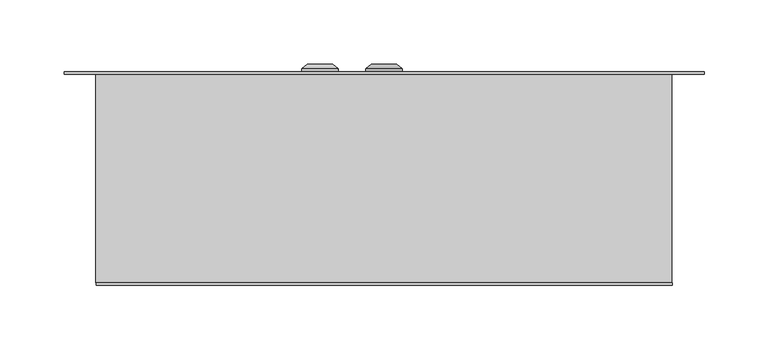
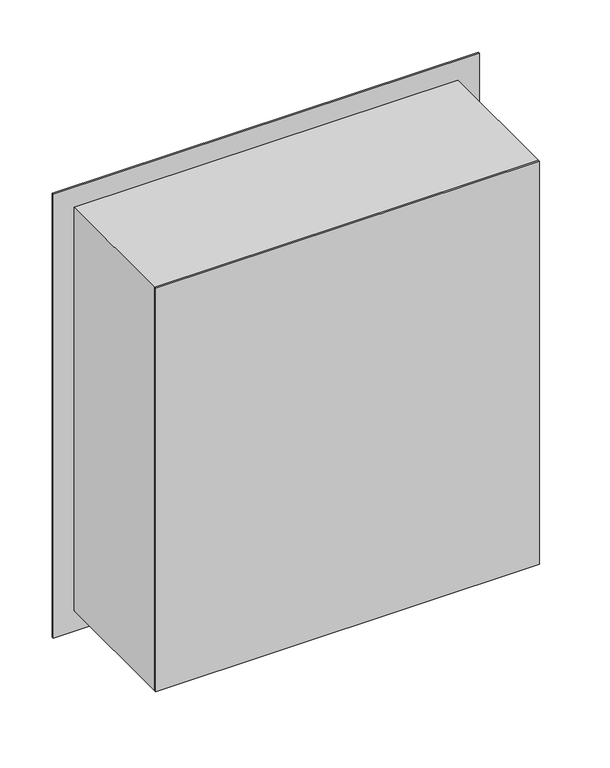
"""IFC4 building model written with IfcOpenShell, lengths in millimetres: proxy geometry, ЩУРВ-3_30 : ЩУРВ-3_30."""

from ifc_helpers import new_model, si_unit, point, frame, frame_2d, origin, place, context, project, spatial, polyline, circle_curve, trimmed, segment, composite_curve, outline, extrude, source, transform, mapped, element, save
from ifc_brep_helpers import plane_surface, cylinder_surface, revolved_surface, advanced_brep


def electrical_equipment_e2eaab87(model_context):
    return source(origin(), model_context, "Body", "SolidModel", [
        extrude(outline(polyline([(225.0, -165.0), (-225.0, -165.0), (-225.0, -163.0), (225.0, -163.0), (225.0, -165.0)])), frame((0.0, 0.0, 25.0), z_axis=(0.0, 0.0, 1.0), x_axis=(1.0, 0.0, 0.0)), (0.0, 0.0, 1.0), 500.0),
        extrude(outline(composite_curve([segment(trimmed(circle_curve(frame_2d((418.0, 17.0169529)), 10.0), [point((428.0, 17.0169529))], [point((418.0, 7.0169529))], False, "CARTESIAN"), True, "CONTINUOUS"), segment(polyline([(418.0, 7.0169529), (363.0, 7.0169529)]), True, "CONTINUOUS"), segment(trimmed(circle_curve(frame_2d((363.0, 17.0169529)), 10.0), [point((363.0, 7.0169529))], [point((353.0, 17.0169529))], False, "CARTESIAN"), True, "CONTINUOUS"), segment(polyline([(353.0, 17.0169529), (353.0, 97.0169529)]), True, "CONTINUOUS"), segment(trimmed(circle_curve(frame_2d((363.0, 97.0169529)), 10.0), [point((353.0, 97.0169529))], [point((363.0, 107.0169529))], False, "CARTESIAN"), True, "CONTINUOUS"), segment(polyline([(363.0, 107.0169529), (418.0, 107.0169529)]), True, "CONTINUOUS"), segment(trimmed(circle_curve(frame_2d((418.0, 97.0169529)), 10.0), [point((418.0, 107.0169529))], [point((428.0, 97.0169529))], False, "CARTESIAN"), True, "CONTINUOUS"), segment(polyline([(428.0, 97.0169529), (428.0, 17.0169529)]), True, "CONTINUOUS")], self_intersect=False)), frame((0.0, 0.0, 0.0), z_axis=(0.0, 1.0, 0.0), x_axis=(0.0, 0.0, 1.0)), (0.0, 0.0, 1.0), 2.0),
        extrude(outline(polyline([(550.0, -250.0), (0.0, -250.0), (0.0, 250.0), (550.0, 250.0), (550.0, -250.0)]), holes=[polyline([(525.0, -225.0), (525.0, 225.0), (25.0, 225.0), (25.0, -225.0), (525.0, -225.0)])]), frame((0.0, 0.0, 0.0), z_axis=(0.0, 1.0, 0.0), x_axis=(0.0, 0.0, 1.0)), (0.0, 0.0, 1.0), 2.0),
        extrude(outline(polyline([(-28.0, 0.0), (-223.0, 0.0), (-223.0, 2.0), (-28.0, 2.0), (-28.0, 0.0)])), frame((0.0, 0.0, 27.0), z_axis=(0.0, 0.0, 1.0), x_axis=(1.0, 0.0, 0.0)), (0.0, 0.0, 1.0), 496.0),
        extrude(outline(polyline([(523.0, -23.0), (27.0, -23.0), (27.0, 223.0), (523.0, 223.0), (523.0, -23.0)]), holes=[composite_curve([segment(polyline([(428.0, 17.0169529), (428.0, 97.0169529)]), True, "CONTINUOUS"), segment(trimmed(circle_curve(frame_2d((418.0, 97.0169529)), 10.0), [point((428.0, 97.0169529))], [point((418.0, 107.0169529))], True, "CARTESIAN"), True, "CONTINUOUS"), segment(polyline([(418.0, 107.0169529), (363.0, 107.0169529)]), True, "CONTINUOUS"), segment(trimmed(circle_curve(frame_2d((363.0, 97.0169529)), 10.0), [point((363.0, 107.0169529))], [point((353.0, 97.0169529))], True, "CARTESIAN"), True, "CONTINUOUS"), segment(polyline([(353.0, 97.0169529), (353.0, 17.0169529)]), True, "CONTINUOUS"), segment(trimmed(circle_curve(frame_2d((363.0, 17.0169529)), 10.0), [point((353.0, 17.0169529))], [point((363.0, 7.0169529))], True, "CARTESIAN"), True, "CONTINUOUS"), segment(polyline([(363.0, 7.0169529), (418.0, 7.0169529)]), True, "CONTINUOUS"), segment(trimmed(circle_curve(frame_2d((418.0, 17.0169529)), 10.0), [point((418.0, 7.0169529))], [point((428.0, 17.0169529))], True, "CARTESIAN"), True, "CONTINUOUS")], self_intersect=False)]), frame((0.0, 0.0, 0.0), z_axis=(0.0, 1.0, 0.0), x_axis=(0.0, 0.0, 1.0)), (0.0, 0.0, 1.0), 2.0),
        extrude(outline(polyline([(525.0, -225.0033905), (25.0, -225.0033905), (25.0, 224.9966095), (525.0, 224.9966095), (525.0, -225.0033905)]), holes=[polyline([(524.0, -224.0033905), (524.0, 223.9966095), (26.0, 223.9966095), (26.0, -224.0033905), (524.0, -224.0033905)])]), frame((0.0, -163.0, 0.0), z_axis=(0.0, 1.0, 0.0), x_axis=(0.0, 0.0, 1.0)), (0.0, 0.0, 1.0), 163.0),
        advanced_brep(
        [(-49.9830471, 2.0, 275.0), (-64.3131742, 2.0, 275.0), (-35.6529201, 2.0, 275.0), (-64.3131742, 4.366592, 275.0), (-35.6529201, 4.366592, 275.0), (-59.9830471, 8.0, 275.0), (-39.9830471, 8.0, 275.0), (-51.875, 8.0, 275.0), (-48.0910943, 8.0, 275.0), (-51.875, 6.9822294, 275.0), (-48.0910943, 6.9822294, 275.0), (-49.9830471, 6.9822294, 275.0)],
        [
            (0, 1),
            (1, 2, circle_curve(frame((-49.9830471, 2.0, 275.0), z_axis=(0.0, -1.0, 0.0), x_axis=(-1.0, 0.0, 0.0)), 14.330127)),
            (2, 0),
            (2, 1, circle_curve(frame((-49.9830471, 2.0, 275.0), z_axis=(0.0, -1.0, 0.0), x_axis=(-1.0, 0.0, 0.0)), 14.330127)),
            (1, 3),
            (3, 4, circle_curve(frame((-49.9830471, 4.366592, 275.0), z_axis=(0.0, -1.0, 0.0), x_axis=(-1.0, 0.0, 0.0)), 14.330127)),
            (4, 2),
            (4, 3, circle_curve(frame((-49.9830471, 4.366592, 275.0), z_axis=(0.0, -1.0, 0.0), x_axis=(-1.0, 0.0, 0.0)), 14.330127)),
            (3, 5),
            (5, 6, circle_curve(frame((-49.9830471, 8.0, 275.0), z_axis=(0.0, -1.0, 0.0), x_axis=(-1.0, 0.0, 0.0)), 10.0)),
            (6, 4),
            (6, 5, circle_curve(frame((-49.9830471, 8.0, 275.0), z_axis=(0.0, -1.0, 0.0), x_axis=(-1.0, 0.0, 0.0)), 10.0)),
            (5, 7),
            (7, 8, circle_curve(frame((-49.9830471, 8.0, 275.0), z_axis=(0.0, -1.0, 0.0), x_axis=(-1.0, 0.0, 0.0)), 1.8919529)),
            (8, 6),
            (8, 7, circle_curve(frame((-49.9830471, 8.0, 275.0), z_axis=(0.0, -1.0, 0.0), x_axis=(-1.0, 0.0, 0.0)), 1.8919529)),
            (7, 9),
            (9, 10, circle_curve(frame((-49.9830471, 6.9822294, 275.0), z_axis=(0.0, -1.0, 0.0), x_axis=(-1.0, 0.0, 0.0)), 1.8919529)),
            (10, 8),
            (10, 9, circle_curve(frame((-49.9830471, 6.9822294, 275.0), z_axis=(0.0, -1.0, 0.0), x_axis=(-1.0, 0.0, 0.0)), 1.8919529)),
            (9, 11),
            (11, 10),
        ],
        [
            plane_surface(frame((-49.9830471, 2.0, 275.0), z_axis=(0.0, -1.0, 0.0), x_axis=(-1.0, 0.0, 0.0))),
            cylinder_surface(frame((-49.9830471, 15.1348851, 275.0), z_axis=(0.0, -1.0, 0.0), x_axis=(-1.0, 0.0, 0.0)), 14.330127),
            revolved_surface(polyline([(-59.9830471, 8.0, 275.0), (-64.3131742, 4.366592, 275.0)]), (-49.9830471, 15.1348851, 275.0), (0.0, -1.0, 0.0)),
            plane_surface(frame((-49.9830471, 8.0, 275.0), z_axis=(0.0, 1.0, 0.0), x_axis=(-1.0, 0.0, 0.0))),
            revolved_surface(polyline([(-51.875, 6.9822294, 275.0), (-51.875, 8.0, 275.0)]), (-49.9830471, 15.1348851, 275.0), (0.0, -1.0, 0.0)),
            plane_surface(frame((-49.9830471, 6.9822294, 275.0), z_axis=(0.0, 1.0, 0.0), x_axis=(-1.0, 0.0, 0.0))),
        ],
        [
            (0, [[1, 2, 3]]),
            (0, [[-3, 4, -1]]),
            (1, [[-2, 5, 6, 7]]),
            (1, [[-4, -7, 8, -5]]),
            (2, [[-6, 9, 10, 11]]),
            (2, [[-8, -11, 12, -9]]),
            (3, [[-10, 13, 14, 15]]),
            (3, [[-12, -15, 16, -13]]),
            (4, [[-14, 17, 18, 19]]),
            (4, [[-16, -19, 20, -17]]),
            (5, [[-18, 21, 22]]),
            (5, [[-20, -22, -21]]),
        ],
    ),
        advanced_brep(
        [(-14.3131742, 2.0, 275.0), (14.3470799, 2.0, 275.0), (0.0169529, 2.0, 275.0), (-14.3131742, 4.366592, 275.0), (14.3470799, 4.366592, 275.0), (-9.9830471, 8.0, 275.0), (10.0169529, 8.0, 275.0), (-1.875, 8.0, 275.0), (1.9089057, 8.0, 275.0), (-1.875, 6.9822294, 275.0), (1.9089057, 6.9822294, 275.0), (0.0169529, 6.9822294, 275.0)],
        [
            (0, 1, circle_curve(frame((0.0169529, 2.0, 275.0), z_axis=(0.0, -1.0, 0.0), x_axis=(1.0, 0.0, 0.0)), 14.330127)),
            (1, 2),
            (2, 0),
            (1, 0, circle_curve(frame((0.0169529, 2.0, 275.0), z_axis=(0.0, -1.0, 0.0), x_axis=(1.0, 0.0, 0.0)), 14.330127)),
            (3, 4, circle_curve(frame((0.0169529, 4.366592, 275.0), z_axis=(0.0, -1.0, 0.0), x_axis=(1.0, 0.0, 0.0)), 14.330127)),
            (4, 1),
            (0, 3),
            (4, 3, circle_curve(frame((0.0169529, 4.366592, 275.0), z_axis=(0.0, -1.0, 0.0), x_axis=(1.0, 0.0, 0.0)), 14.330127)),
            (5, 6, circle_curve(frame((0.0169529, 8.0, 275.0), z_axis=(0.0, -1.0, 0.0), x_axis=(1.0, 0.0, 0.0)), 10.0)),
            (6, 4),
            (3, 5),
            (6, 5, circle_curve(frame((0.0169529, 8.0, 275.0), z_axis=(0.0, -1.0, 0.0), x_axis=(1.0, 0.0, 0.0)), 10.0)),
            (7, 8, circle_curve(frame((0.0169529, 8.0, 275.0), z_axis=(0.0, -1.0, 0.0), x_axis=(1.0, 0.0, 0.0)), 1.8919529)),
            (8, 6),
            (5, 7),
            (8, 7, circle_curve(frame((0.0169529, 8.0, 275.0), z_axis=(0.0, -1.0, 0.0), x_axis=(1.0, 0.0, 0.0)), 1.8919529)),
            (9, 10, circle_curve(frame((0.0169529, 6.9822294, 275.0), z_axis=(0.0, -1.0, 0.0), x_axis=(1.0, 0.0, 0.0)), 1.8919529)),
            (10, 8),
            (7, 9),
            (10, 9, circle_curve(frame((0.0169529, 6.9822294, 275.0), z_axis=(0.0, -1.0, 0.0), x_axis=(1.0, 0.0, 0.0)), 1.8919529)),
            (11, 10),
            (9, 11),
        ],
        [
            plane_surface(frame((0.0169529, 2.0, 275.0), z_axis=(0.0, -1.0, 0.0), x_axis=(1.0, 0.0, 0.0))),
            cylinder_surface(frame((0.0169529, 15.1348851, 275.0), z_axis=(0.0, 1.0, 0.0), x_axis=(1.0, 0.0, 0.0)), 14.330127),
            revolved_surface(polyline([(14.3470799, 4.366592, 275.0), (10.0169529, 8.0, 275.0)]), (0.0169529, 15.1348851, 275.0), (0.0, 1.0, 0.0)),
            plane_surface(frame((0.0169529, 8.0, 275.0), z_axis=(0.0, 1.0, 0.0), x_axis=(1.0, 0.0, 0.0))),
            revolved_surface(polyline([(1.9089057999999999, 8.0, 275.0), (1.9089057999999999, 6.9822294, 275.0)]), (0.0169529, 15.1348851, 275.0), (0.0, 1.0, 0.0)),
            plane_surface(frame((0.0169529, 6.9822294, 275.0), z_axis=(0.0, 1.0, 0.0), x_axis=(1.0, 0.0, 0.0))),
        ],
        [
            (0, [[1, 2, 3]]),
            (0, [[4, -3, -2]]),
            (1, [[5, 6, -1, 7]]),
            (1, [[8, -7, -4, -6]]),
            (2, [[9, 10, -5, 11]]),
            (2, [[12, -11, -8, -10]]),
            (3, [[13, 14, -9, 15]]),
            (3, [[16, -15, -12, -14]]),
            (4, [[17, 18, -13, 19]]),
            (4, [[20, -19, -16, -18]]),
            (5, [[21, -17, 22]]),
            (5, [[-22, -20, -21]]),
        ],
    ),
    ])


if __name__ == "__main__":
    model = new_model("IFC4")
    model_context = context("Model", 3, world=origin())
    ifc_project = project(units=[si_unit("LENGTHUNIT", "METRE", prefix="MILLI")], contexts=[model_context])
    site = spatial("IfcSite", under=ifc_project)
    building = spatial("IfcBuilding", under=site)
    placement = place(None, origin())
    electrical_equipment_shape = electrical_equipment_e2eaab87(model_context)
    element("IfcBuildingElementProxy", 1, Name="ЩУРВ-3_30 : ЩУРВ-3_30", ObjectType="ЩУРВ-3_30 : ЩУРВ-3_30", at=placement, inside=building, context=model_context, shape_type="MappedRepresentation", body=[
        mapped(electrical_equipment_shape, transform((0.0, 0.0, 0.0), x_axis=(1.0, 0.0, 0.0), y_axis=(0.0, 1.0, 0.0), z_axis=(0.0, 0.0, 1.0))),
    ])
    save(model, "model.ifc")
